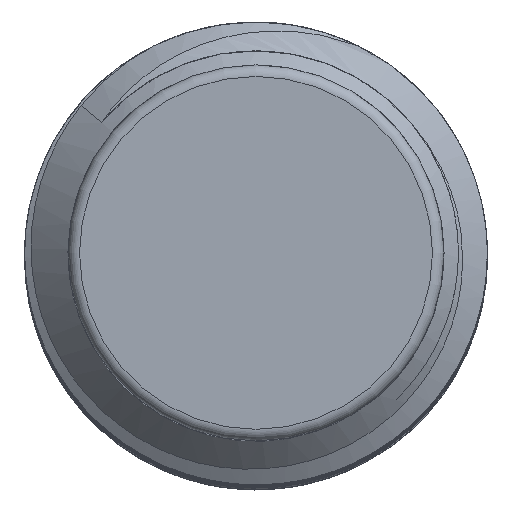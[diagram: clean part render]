
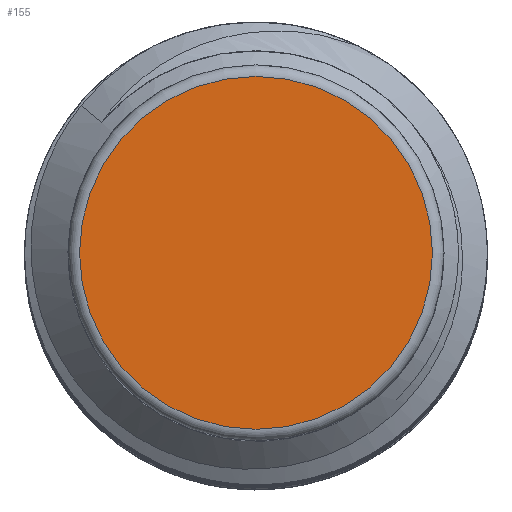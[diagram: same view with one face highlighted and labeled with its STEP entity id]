
A CAD part, top view. The second image highlights one B-rep face of the part: STEP entity #155.
In plain terms, the highlighted planar face has unit normal (0, 0, 1).
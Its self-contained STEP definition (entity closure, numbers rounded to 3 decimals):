
#98=PLANE('',#554);
#122=FACE_OUTER_BOUND('',#290,.T.);
#155=ADVANCED_FACE('',(#122),#98,.T.);
#290=EDGE_LOOP('',(#384));
#384=ORIENTED_EDGE('',*,*,#472,.T.);
#425=VERTEX_POINT('',#11994);
#472=EDGE_CURVE('',#425,#425,#498,.T.);
#498=CIRCLE('',#553,3.05);
#553=AXIS2_PLACEMENT_3D('',#11993,#664,#665);
#554=AXIS2_PLACEMENT_3D('',#11995,#666,#667);
#664=DIRECTION('',(0.,0.,1.));
#665=DIRECTION('',(1.,0.,0.));
#666=DIRECTION('',(0.,0.,1.));
#667=DIRECTION('',(1.,0.,0.));
#11993=CARTESIAN_POINT('',(0.,0.,60.1));
#11994=CARTESIAN_POINT('',(3.05,0.,60.1));
#11995=CARTESIAN_POINT('',(0.,0.,60.1));
